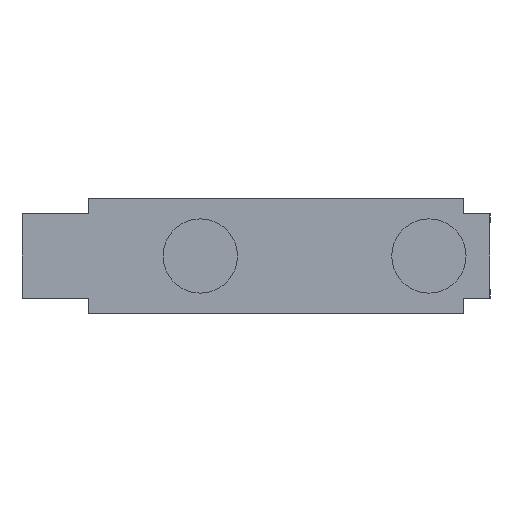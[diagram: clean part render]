
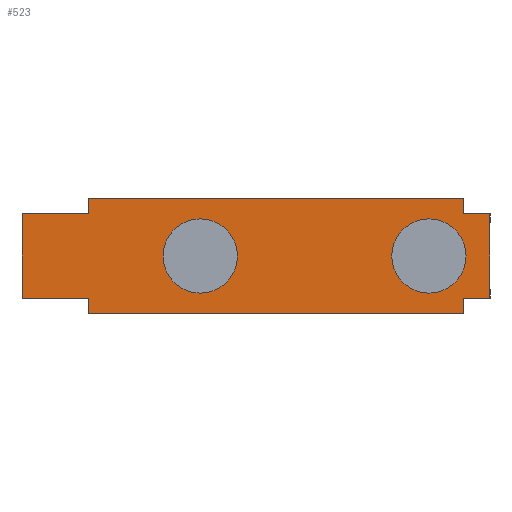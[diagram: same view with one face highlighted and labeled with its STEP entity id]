
A CAD part, left-side view. The second image highlights one B-rep face of the part: STEP entity #523.
In plain terms, the highlighted planar face has unit normal (-1, 0, 0).
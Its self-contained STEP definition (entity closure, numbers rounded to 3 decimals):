
#111 = LINE ( 'NONE', #1115, #2341 ) ;
#197 = EDGE_CURVE ( 'NONE', #2110, #560, #111, .T. ) ;
#220 = AXIS2_PLACEMENT_3D ( 'NONE', #1600, #1613, #1611 ) ;
#255 = EDGE_CURVE ( 'NONE', #2107, #2097, #2419, .T. ) ;
#262 = EDGE_CURVE ( 'NONE', #558, #2113, #2434, .T. ) ;
#275 = EDGE_CURVE ( 'NONE', #557, #2110, #2459, .T. ) ;
#278 = EDGE_CURVE ( 'NONE', #2123, #2111, #2467, .T. ) ;
#279 = EDGE_CURVE ( 'NONE', #1315, #2099, #2469, .T. ) ;
#284 = AXIS2_PLACEMENT_3D ( 'NONE', #1012, #1004, #1003 ) ;
#296 = AXIS2_PLACEMENT_3D ( 'NONE', #1025, #1007, #1006 ) ;
#299 = AXIS2_PLACEMENT_3D ( 'NONE', #1668, #1698, #1695 ) ;
#302 = EDGE_CURVE ( 'NONE', #558, #559, #2497, .T. ) ;
#352 = EDGE_CURVE ( 'NONE', #561, #2113, #2555, .T. ) ;
#355 = EDGE_CURVE ( 'NONE', #2102, #1314, #2572, .T. ) ;
#374 = EDGE_CURVE ( 'NONE', #556, #561, #2591, .T. ) ;
#380 = EDGE_CURVE ( 'NONE', #2099, #1315, #2614, .T. ) ;
#392 = AXIS2_PLACEMENT_3D ( 'NONE', #1730, #2048, #1894 ) ;
#393 = EDGE_CURVE ( 'NONE', #560, #2102, #2612, .T. ) ;
#416 = EDGE_CURVE ( 'NONE', #2107, #556, #615, .T. ) ;
#429 = EDGE_CURVE ( 'NONE', #2097, #1314, #637, .T. ) ;
#459 = EDGE_CURVE ( 'NONE', #2111, #2123, #684, .T. ) ;
#470 = EDGE_CURVE ( 'NONE', #559, #557, #701, .T. ) ;
#523 = ADVANCED_FACE ( 'NONE', ( #762, #760, #765 ), #1671, .F. ) ;
#556 = VERTEX_POINT ( 'NONE', #2087 ) ;
#557 = VERTEX_POINT ( 'NONE', #2061 ) ;
#558 = VERTEX_POINT ( 'NONE', #2062 ) ;
#559 = VERTEX_POINT ( 'NONE', #1656 ) ;
#560 = VERTEX_POINT ( 'NONE', #1378 ) ;
#561 = VERTEX_POINT ( 'NONE', #1377 ) ;
#615 = LINE ( 'NONE', #1532, #616 ) ;
#616 = VECTOR ( 'NONE', #1531, 1000. ) ;
#637 = LINE ( 'NONE', #1766, #638 ) ;
#638 = VECTOR ( 'NONE', #1764, 1000. ) ;
#684 = CIRCLE ( 'NONE', #392, 5.2 ) ;
#701 = LINE ( 'NONE', #1884, #702 ) ;
#702 = VECTOR ( 'NONE', #1883, 1000. ) ;
#760 = FACE_OUTER_BOUND ( 'NONE', #2297, .T. ) ;
#762 = FACE_BOUND ( 'NONE', #2318, .T. ) ;
#765 = FACE_BOUND ( 'NONE', #2322, .T. ) ;
#960 = DIRECTION ( 'NONE',  ( 0., 1., 0. ) ) ;
#961 = CARTESIAN_POINT ( 'NONE',  ( 0.65, 47.6, -8. ) ) ;
#1003 = DIRECTION ( 'NONE',  ( 0., -1., 0. ) ) ;
#1004 = DIRECTION ( 'NONE',  ( -1., 0., 0. ) ) ;
#1006 = DIRECTION ( 'NONE',  ( 0., -1., 0. ) ) ;
#1007 = DIRECTION ( 'NONE',  ( -1., 0., 0. ) ) ;
#1012 = CARTESIAN_POINT ( 'NONE',  ( 0.65, 0., 0. ) ) ;
#1016 = DIRECTION ( 'NONE',  ( 0., 1., 0. ) ) ;
#1017 = CARTESIAN_POINT ( 'NONE',  ( 0.65, 47.6, -5.9 ) ) ;
#1025 = CARTESIAN_POINT ( 'NONE',  ( 0.65, 32., 0. ) ) ;
#1042 = DIRECTION ( 'NONE',  ( 0., 0., 1. ) ) ;
#1046 = CARTESIAN_POINT ( 'NONE',  ( 0.65, -4.9, -8. ) ) ;
#1054 = DIRECTION ( 'NONE',  ( 0., 0., 1. ) ) ;
#1064 = CARTESIAN_POINT ( 'NONE',  ( 0.65, -4.9, -8. ) ) ;
#1101 = DIRECTION ( 'NONE',  ( 0., 0., 1. ) ) ;
#1115 = CARTESIAN_POINT ( 'NONE',  ( 0.65, 56.95, 5.9 ) ) ;
#1314 = VERTEX_POINT ( 'NONE', #1397 ) ;
#1315 = VERTEX_POINT ( 'NONE', #1396 ) ;
#1377 = CARTESIAN_POINT ( 'NONE',  ( 0.65, -8.55, -5.9 ) ) ;
#1378 = CARTESIAN_POINT ( 'NONE',  ( 0.65, 56.95, 5.9 ) ) ;
#1396 = CARTESIAN_POINT ( 'NONE',  ( 0.65, 5.2, 0. ) ) ;
#1397 = CARTESIAN_POINT ( 'NONE',  ( 0.65, 47.6, 8. ) ) ;
#1531 = DIRECTION ( 'NONE',  ( 0., -1., 0. ) ) ;
#1532 = CARTESIAN_POINT ( 'NONE',  ( 0.65, -8.55, 5.9 ) ) ;
#1570 = DIRECTION ( 'NONE',  ( 0., -1., 0. ) ) ;
#1572 = CARTESIAN_POINT ( 'NONE',  ( 0.65, -8.55, 5.9 ) ) ;
#1584 = DIRECTION ( 'NONE',  ( 0., 0., -1. ) ) ;
#1600 = CARTESIAN_POINT ( 'NONE',  ( 0.65, 0., 0. ) ) ;
#1602 = CARTESIAN_POINT ( 'NONE',  ( 0.65, 47.6, 5.9 ) ) ;
#1611 = DIRECTION ( 'NONE',  ( 0., -1., 0. ) ) ;
#1613 = DIRECTION ( 'NONE',  ( -1., 0., 0. ) ) ;
#1632 = DIRECTION ( 'NONE',  ( 0., 0., 1. ) ) ;
#1633 = CARTESIAN_POINT ( 'NONE',  ( 0.65, 47.6, -8. ) ) ;
#1637 = CARTESIAN_POINT ( 'NONE',  ( 0.65, -8.55, -5.9 ) ) ;
#1640 = DIRECTION ( 'NONE',  ( 0., 1., 0. ) ) ;
#1656 = CARTESIAN_POINT ( 'NONE',  ( 0.65, 47.6, -8. ) ) ;
#1668 = CARTESIAN_POINT ( 'NONE',  ( 0.65, 47.6, -8. ) ) ;
#1671 = PLANE ( 'NONE',  #299 ) ;
#1695 = DIRECTION ( 'NONE',  ( 0., -1., 0. ) ) ;
#1698 = DIRECTION ( 'NONE',  ( 1., 0., 0. ) ) ;
#1730 = CARTESIAN_POINT ( 'NONE',  ( 0.65, 32., 0. ) ) ;
#1764 = DIRECTION ( 'NONE',  ( 0., 1., 0. ) ) ;
#1766 = CARTESIAN_POINT ( 'NONE',  ( 0.65, 47.6, 8. ) ) ;
#1883 = DIRECTION ( 'NONE',  ( 0., 0., 1. ) ) ;
#1884 = CARTESIAN_POINT ( 'NONE',  ( 0.65, 47.6, -8. ) ) ;
#1894 = DIRECTION ( 'NONE',  ( 0., -1., 0. ) ) ;
#1911 = CARTESIAN_POINT ( 'NONE',  ( 0.65, -4.9, -5.9 ) ) ;
#1913 = CARTESIAN_POINT ( 'NONE',  ( 0.65, 37.2, 0. ) ) ;
#1914 = CARTESIAN_POINT ( 'NONE',  ( 0.65, 56.95, -5.9 ) ) ;
#1925 = CARTESIAN_POINT ( 'NONE',  ( 0.65, 26.8, 0. ) ) ;
#1991 = CARTESIAN_POINT ( 'NONE',  ( 0.65, -4.9, 5.9 ) ) ;
#1997 = CARTESIAN_POINT ( 'NONE',  ( 0.65, -5.2, 0. ) ) ;
#2040 = CARTESIAN_POINT ( 'NONE',  ( 0.65, 47.6, 5.9 ) ) ;
#2044 = CARTESIAN_POINT ( 'NONE',  ( 0.65, -4.9, 8. ) ) ;
#2048 = DIRECTION ( 'NONE',  ( -1., 0., 0. ) ) ;
#2061 = CARTESIAN_POINT ( 'NONE',  ( 0.65, 47.6, -5.9 ) ) ;
#2062 = CARTESIAN_POINT ( 'NONE',  ( 0.65, -4.9, -8. ) ) ;
#2087 = CARTESIAN_POINT ( 'NONE',  ( 0.65, -8.55, 5.9 ) ) ;
#2097 = VERTEX_POINT ( 'NONE', #2044 ) ;
#2099 = VERTEX_POINT ( 'NONE', #1997 ) ;
#2102 = VERTEX_POINT ( 'NONE', #2040 ) ;
#2107 = VERTEX_POINT ( 'NONE', #1991 ) ;
#2110 = VERTEX_POINT ( 'NONE', #1914 ) ;
#2111 = VERTEX_POINT ( 'NONE', #1913 ) ;
#2113 = VERTEX_POINT ( 'NONE', #1911 ) ;
#2123 = VERTEX_POINT ( 'NONE', #1925 ) ;
#2194 = ORIENTED_EDGE ( 'NONE', *, *, #459, .F. ) ;
#2195 = ORIENTED_EDGE ( 'NONE', *, *, #278, .F. ) ;
#2196 = ORIENTED_EDGE ( 'NONE', *, *, #255, .T. ) ;
#2197 = ORIENTED_EDGE ( 'NONE', *, *, #416, .F. ) ;
#2198 = ORIENTED_EDGE ( 'NONE', *, *, #374, .F. ) ;
#2206 = ORIENTED_EDGE ( 'NONE', *, *, #380, .F. ) ;
#2209 = ORIENTED_EDGE ( 'NONE', *, *, #355, .F. ) ;
#2210 = ORIENTED_EDGE ( 'NONE', *, *, #302, .F. ) ;
#2211 = ORIENTED_EDGE ( 'NONE', *, *, #352, .F. ) ;
#2212 = ORIENTED_EDGE ( 'NONE', *, *, #262, .T. ) ;
#2213 = ORIENTED_EDGE ( 'NONE', *, *, #470, .F. ) ;
#2214 = ORIENTED_EDGE ( 'NONE', *, *, #393, .F. ) ;
#2215 = ORIENTED_EDGE ( 'NONE', *, *, #275, .F. ) ;
#2216 = ORIENTED_EDGE ( 'NONE', *, *, #197, .F. ) ;
#2217 = ORIENTED_EDGE ( 'NONE', *, *, #279, .F. ) ;
#2218 = ORIENTED_EDGE ( 'NONE', *, *, #429, .T. ) ;
#2297 = EDGE_LOOP ( 'NONE', ( #2218, #2209, #2214, #2216, #2215, #2213, #2210, #2212, #2211, #2198, #2197, #2196 ) ) ;
#2318 = EDGE_LOOP ( 'NONE', ( #2206, #2217 ) ) ;
#2322 = EDGE_LOOP ( 'NONE', ( #2195, #2194 ) ) ;
#2341 = VECTOR ( 'NONE', #1101, 1000. ) ;
#2419 = LINE ( 'NONE', #1064, #2431 ) ;
#2431 = VECTOR ( 'NONE', #1054, 1000. ) ;
#2434 = LINE ( 'NONE', #1046, #2441 ) ;
#2441 = VECTOR ( 'NONE', #1042, 1000. ) ;
#2459 = LINE ( 'NONE', #1017, #2460 ) ;
#2460 = VECTOR ( 'NONE', #1016, 1000. ) ;
#2467 = CIRCLE ( 'NONE', #296, 5.2 ) ;
#2469 = CIRCLE ( 'NONE', #284, 5.2 ) ;
#2497 = LINE ( 'NONE', #961, #2498 ) ;
#2498 = VECTOR ( 'NONE', #960, 1000. ) ;
#2555 = LINE ( 'NONE', #1637, #2566 ) ;
#2566 = VECTOR ( 'NONE', #1640, 1000. ) ;
#2572 = LINE ( 'NONE', #1633, #2573 ) ;
#2573 = VECTOR ( 'NONE', #1632, 1000. ) ;
#2591 = LINE ( 'NONE', #1572, #2602 ) ;
#2602 = VECTOR ( 'NONE', #1584, 1000. ) ;
#2612 = LINE ( 'NONE', #1602, #2633 ) ;
#2614 = CIRCLE ( 'NONE', #220, 5.2 ) ;
#2633 = VECTOR ( 'NONE', #1570, 1000. ) ;
